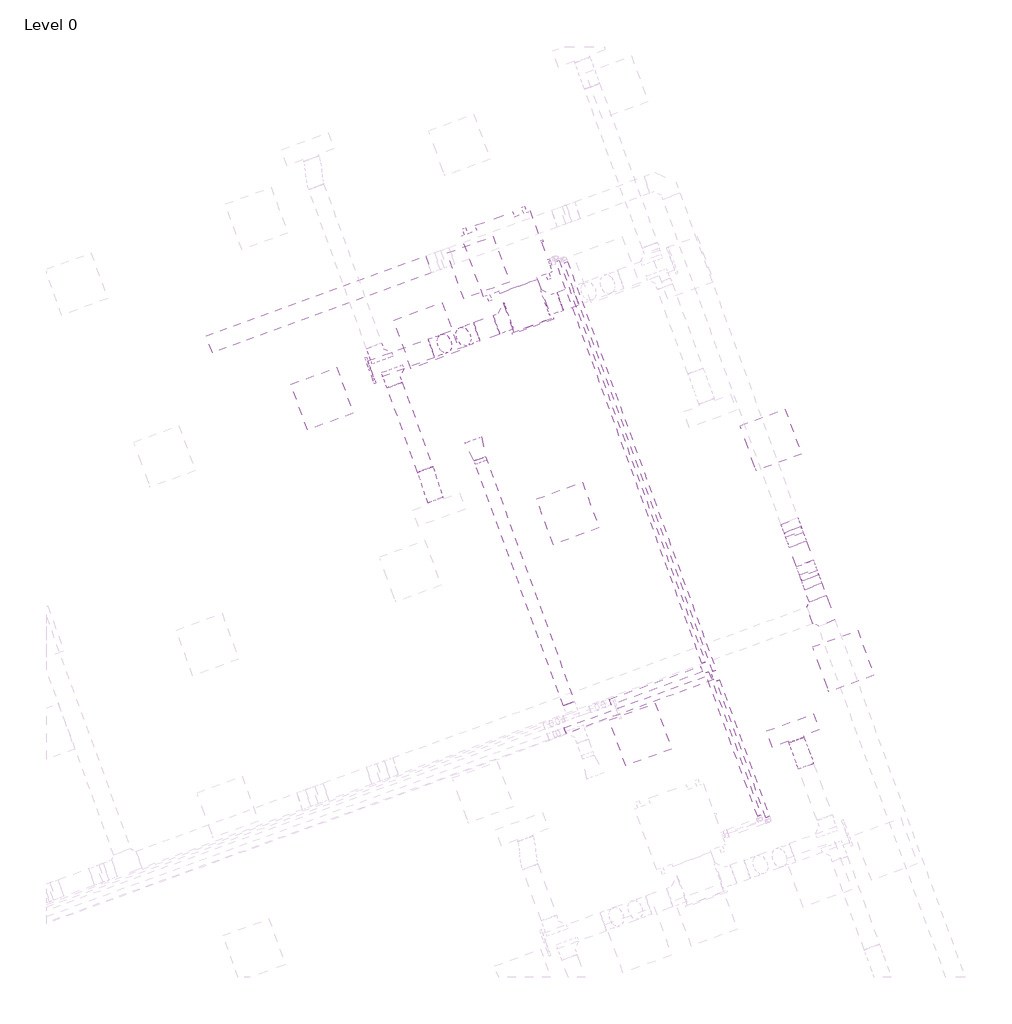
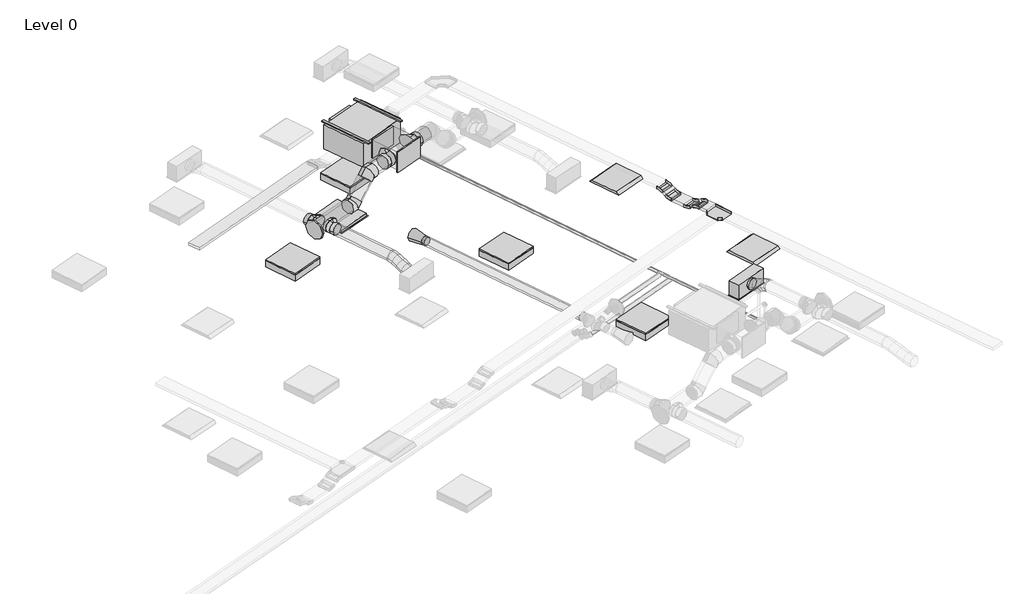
# One storey, part 32 of 34: 9 duct segments, 8 duct fittings, 6 light fixtures, 6 pipe segments, 5 cable carrier fittings, 5 cable carrier segments, 3 air terminals, 1 proxy.
"""IFC4 building model written with IfcOpenShell, lengths in millimetres."""

from ifc_helpers import new_model, si_unit, point, frame, frame_2d, origin, place, context, project, spatial, polyline, circle_curve, ellipse_curve, trimmed, segment, composite_curve, outline, extrude, transform, mapped, element, save
from ifc_brep_helpers import plane_surface, cylinder_surface, advanced_brep
from components import air_terminal_b88b8e4d, return_grille_rectangular_hosted_standard_7b12617c, supply_diffuser_with_plenum_linear_slot_hosted_2b730595, fan_coil_unit_ceiling_ducted_chw_376_lps_945e770d, cable_tray_horizontal_tee_standard_d76b5e15, cable_tray_vertical_inside_bend_standard_9a66f55b, cable_tray_vertical_outside_bend_standard_4df2047e, dw144_rectangular_blank_end_standard_1669e3e3, dw144_round_blank_end_standard_e3d0b58b, dw144_round_segmented_bend_slip_joint_standard_636bd9c1, dw144_round_shoe_branch_slip_joint1_standard_2_559552f4, dw144_round_shoe_branch_slip_joint1_standard_2_4a92c8a1, dw144_round_shoe_branch_slip_joint1_standard_2_671412f0, light_fixture_b730b5ca, troffer_light_2x2_parabolic_2_x2_2_lamp_120v_6a063ff3

model = new_model("IFC4")

# Units and contexts
model_context = context("Model", 3, world=origin())
ifc_project = project(units=[si_unit("LENGTHUNIT", "METRE", prefix="MILLI")], contexts=[model_context])

# Site, building, storey
site = spatial("IfcSite", under=ifc_project)
building = spatial("IfcBuilding", under=site)
storey = spatial("IfcBuildingStorey", under=building, Name="Level 0", Elevation=0.0)

# Air terminals
placement = place(None, origin())
air_terminal_shape = air_terminal_b88b8e4d(model_context)
element("IfcAirTerminal", 1, ObjectType="Supply_Bell_Mouth_Grille : Supply_Bell_Mouth_Grille", at=placement, inside=storey, context=model_context, shape_type="MappedRepresentation", body=[
    mapped(air_terminal_shape, transform((58081.5319053, 19738.0197173, 3050.0), x_axis=(-0.3420201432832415, 0.9396926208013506, 0.0), y_axis=(-0.9396926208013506, -0.3420201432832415, 0.0), z_axis=(0.0, 0.0, 1.0))),
])
return_grille_rectangular_hosted_standard_shape = return_grille_rectangular_hosted_standard_7b12617c(model_context)
element("IfcAirTerminal", 2, ObjectType="Return Grille - Rectangular - Hosted : Standard", at=placement, inside=storey, context=model_context, shape_type="MappedRepresentation", body=[
    mapped(return_grille_rectangular_hosted_standard_shape, transform((57415.537706, 21278.3997704, 2800.0), x_axis=(0.939692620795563, 0.34202014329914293, 0.0), y_axis=(0.34202014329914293, -0.939692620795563, 0.0), z_axis=(0.0, 0.0, -1.0))),
])
supply_diffuser_with_plenum_linear_slot_hosted_shape = supply_diffuser_with_plenum_linear_slot_hosted_2b730595(model_context)
element("IfcAirTerminal", 3, ObjectType="Supply Diffuser with Plenum - Linear Slot - Hosted : 24\" x 8\"-200 In Inlet  4-Slot", at=placement, inside=storey, context=model_context, shape_type="MappedRepresentation", body=[
    mapped(supply_diffuser_with_plenum_linear_slot_hosted_shape, transform((62001.2706716, 16338.1811806, 2800.0), x_axis=(-0.9396926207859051, -0.3420201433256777, 0.0), y_axis=(-0.3420201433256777, 0.9396926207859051, 0.0), z_axis=(0.0, 0.0, -1.0))),
])

# Proxy
fan_coil_unit_ceiling_ducted_chw_376_lps_shape = fan_coil_unit_ceiling_ducted_chw_376_lps_945e770d(model_context)
element("IfcBuildingElementProxy", 4, Name="Fan Coil Unit - Ceiling Ducted - CHW : 376 LPS", ObjectType="Fan Coil Unit - Ceiling Ducted - CHW : 376 LPS", at=placement, inside=storey, context=model_context, shape_type="MappedRepresentation", body=[
    mapped(fan_coil_unit_ceiling_ducted_chw_376_lps_shape, transform((58128.3265173, 21761.0235029, 3215.575), x_axis=(0.9396926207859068, 0.34202014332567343, 0.0), y_axis=(-0.34202014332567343, 0.9396926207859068, 0.0), z_axis=(0.0, 0.0, 1.0))),
])

# Cable carrier fittings
cable_tray_horizontal_tee_standard_shape = cable_tray_horizontal_tee_standard_d76b5e15(model_context)
element("IfcCableCarrierFitting", 5, ObjectType="Cable Tray Horizontal Tee : Standard", at=placement, inside=storey, context=model_context, shape_type="MappedRepresentation", body=[
    mapped(cable_tray_horizontal_tee_standard_shape, transform((62366.6932534, 17834.0619919, 3248.9627355), x_axis=(0.3420201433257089, -0.9396926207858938, 0.0), y_axis=(0.9396926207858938, 0.3420201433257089, 0.0), z_axis=(0.0, 0.0, 1.0))),
])
cable_tray_vertical_inside_bend_standard_shape = cable_tray_vertical_inside_bend_standard_9a66f55b(model_context)
element("IfcCableCarrierFitting", 6, ObjectType="Cable Tray Vertical Inside Bend : Standard", at=placement, inside=storey, context=model_context, shape_type="MappedRepresentation", body=[
    mapped(cable_tray_vertical_inside_bend_standard_shape, transform((62173.4812107, 18364.9077165, 3148.9627355), x_axis=(0.3420201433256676, -0.9396926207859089, 0.0), y_axis=(0.0, 0.0, 1.0000000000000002), z_axis=(-0.9396926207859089, -0.3420201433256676, 0.0))),
])
element("IfcCableCarrierFitting", 7, ObjectType="Cable Tray Vertical Inside Bend : Standard", at=placement, inside=storey, context=model_context, shape_type="MappedRepresentation", body=[
    mapped(cable_tray_vertical_inside_bend_standard_shape, transform((62039.8978743, 18731.9249168, 3148.9627355), x_axis=(0.29619813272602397, -0.8137976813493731, -0.5000000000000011), y_axis=(0.17101007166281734, -0.4698463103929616, 0.8660254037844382), z_axis=(-0.9396926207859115, -0.3420201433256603, 0.0))),
])
cable_tray_vertical_outside_bend_standard_shape = cable_tray_vertical_outside_bend_standard_4df2047e(model_context)
element("IfcCableCarrierFitting", 8, ObjectType="Cable Tray Vertical Outside Bend : Standard", at=placement, inside=storey, context=model_context, shape_type="MappedRepresentation", body=[
    mapped(cable_tray_vertical_outside_bend_standard_shape, transform((62232.7208373, 18202.1481802, 3248.9627355), x_axis=(-0.34202014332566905, 0.9396926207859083, 0.0), y_axis=(0.0, 0.0, -1.0), z_axis=(-0.9396926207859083, -0.34202014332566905, 0.0))),
])
element("IfcCableCarrierFitting", 9, ObjectType="Cable Tray Vertical Outside Bend : Standard", at=placement, inside=storey, context=model_context, shape_type="MappedRepresentation", body=[
    mapped(cable_tray_vertical_outside_bend_standard_shape, transform((61980.6582478, 18894.6844531, 3248.9627355), x_axis=(-0.29619813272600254, 0.8137976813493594, 0.500000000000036), y_axis=(-0.1710100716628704, 0.4698463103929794, -0.866025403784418), z_axis=(-0.9396926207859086, -0.3420201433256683, 0.0))),
])

# Cable carrier segments
element("IfcCableCarrierSegment", 10, ObjectType="Perforated Cable Tray", at=placement, inside=storey, context=model_context, shape_type="SweptSolid", body=[
    extrude(outline(polyline([(62416.8304, 18025.2393089), (62205.3995603, 17948.2847766), (62149.9164227, 18100.7234443), (62361.3472624, 18177.6779766), (62416.8304, 18025.2393089)])), frame((0.0, 0.0, 3223.9627355), z_axis=(0.0, 0.0, 1.0), x_axis=(1.0, 0.0, 0.0)), (0.0, 0.0, 1.0), 50.0),
])
element("IfcCableCarrierSegment", 11, ObjectType="Perforated Cable Tray", at=placement, inside=storey, context=model_context, shape_type="SweptSolid", body=[
    extrude(outline(polyline([(0.0, -225.0), (0.0, 0.0), (66.0254038, 0.0), (66.0254037, -225.0), (0.0, -225.0)])), frame((62111.4391566, 18206.4388642, 3193.8184513), z_axis=(-0.1710100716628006, 0.4698463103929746, 0.8660254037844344), x_axis=(-0.29619813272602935, 0.8137976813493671, -0.5000000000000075)), (0.0, 0.0, 1.0), 50.0),
])
element("IfcCableCarrierSegment", 12, ObjectType="Perforated Cable Tray", at=placement, inside=storey, context=model_context, shape_type="SweptSolid", body=[
    extrude(outline(polyline([(62256.2856253, 18466.3324523), (62044.8547856, 18389.3779201), (61957.0934598, 18630.500181), (62168.5242995, 18707.4547132), (62256.2856253, 18466.3324523)])), frame((0.0, 0.0, 3123.9627355), z_axis=(0.0, 0.0, 1.0), x_axis=(1.0, 0.0, 0.0)), (0.0, 0.0, 1.0), 50.0),
])
element("IfcCableCarrierSegment", 13, ObjectType="Perforated Cable Tray", at=placement, inside=storey, context=model_context, shape_type="SweptSolid", body=[
    extrude(outline(polyline([(0.0, -225.0), (0.0, 0.0), (66.0254038, 0.0), (66.0254038, -225.0), (0.0, -225.0)])), frame((61910.0656901, 18759.7079163, 3160.8057494), z_axis=(0.17101007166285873, -0.469846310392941, 0.866025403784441), x_axis=(-0.2961981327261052, 0.8137976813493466, 0.49999999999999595)), (0.0, 0.0, 1.0), 50.0),
])
element("IfcCableCarrierSegment", 14, ObjectType="Perforated Cable Tray", at=placement, inside=storey, context=model_context, shape_type="SweptSolid", body=[
    extrude(outline(polyline([(57404.0868122, 22274.5262105), (57481.0413445, 22063.0953708), (54735.1563016, 21063.6749485), (54658.2017694, 21275.1057882), (57404.0868122, 22274.5262105)])), frame((0.0, 0.0, 3223.9627355), z_axis=(0.0, 0.0, 1.0), x_axis=(1.0, 0.0, 0.0)), (0.0, 0.0, 1.0), 50.0),
])

# Duct fittings
dw144_rectangular_blank_end_standard_shape = dw144_rectangular_blank_end_standard_1669e3e3(model_context)
element("IfcDuctFitting", 15, ObjectType="DW144 Rectangular Blank End : Standard", at=placement, inside=storey, context=model_context, shape_type="MappedRepresentation", body=[
    mapped(dw144_rectangular_blank_end_standard_shape, transform((58744.3549616, 21405.2626341, 3469.575), x_axis=(0.34202014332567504, -0.9396926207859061, 0.0), y_axis=(0.9396926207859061, 0.34202014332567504, 0.0), z_axis=(0.0, 0.0, 1.0))),
])
dw144_round_blank_end_standard_shape = dw144_round_blank_end_standard_e3d0b58b(model_context)
element("IfcDuctFitting", 16, ObjectType="DW144 Round Blank End : Standard", at=placement, inside=storey, context=model_context, shape_type="MappedRepresentation", body=[
    mapped(dw144_round_blank_end_standard_shape, transform((56721.6415567, 20844.3987052, 3072.2088531), x_axis=(-0.9396926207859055, -0.3420201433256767, 0.0), y_axis=(0.3420201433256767, -0.9396926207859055, 0.0), z_axis=(0.0, 0.0, 1.0))),
])
dw144_round_segmented_bend_slip_joint_standard_shape = dw144_round_segmented_bend_slip_joint_standard_636bd9c1(model_context)
element("IfcDuctFitting", 17, ObjectType="DW144 Round Segmented Bend - Slip Joint : Standard", at=placement, inside=storey, context=model_context, shape_type="MappedRepresentation", body=[
    mapped(dw144_round_segmented_bend_slip_joint_standard_shape, transform((57572.2414269, 21153.9917392, 3072.2088531), x_axis=(-0.6644630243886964, -0.24184476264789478, -0.7071067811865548), y_axis=(-0.6644630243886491, -0.24184476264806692, 0.7071067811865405), z_axis=(-0.34202014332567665, 0.9396926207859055, 0.0))),
])
element("IfcDuctFitting", 18, ObjectType="DW144 Round Segmented Bend - Slip Joint : Standard", at=placement, inside=storey, context=model_context, shape_type="MappedRepresentation", body=[
    mapped(dw144_round_segmented_bend_slip_joint_standard_shape, transform((57945.6434628, 21289.8989657, 3469.575), x_axis=(-0.9396926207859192, -0.3420201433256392, 0.0), y_axis=(0.0, 0.0, -1.0000000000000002), z_axis=(0.3420201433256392, -0.9396926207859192, 0.0))),
])
dw144_round_shoe_branch_slip_joint1_standard_2_shape = dw144_round_shoe_branch_slip_joint1_standard_2_559552f4(model_context)
element("IfcDuctFitting", 19, ObjectType="DW144 Round Shoe Branch - Slip Joint1 : Standard 2", at=placement, inside=storey, context=model_context, shape_type="MappedRepresentation", body=[
    mapped(dw144_round_shoe_branch_slip_joint1_standard_2_shape, transform((56809.7266884, 21009.4812928, 3072.2088531), x_axis=(-0.3420201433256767, 0.9396926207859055, 0.0), y_axis=(0.9396926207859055, 0.3420201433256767, 0.0), z_axis=(0.0, 0.0, -1.0))),
])
element("IfcDuctFitting", 20, ObjectType="DW144 Round Shoe Branch - Slip Joint1 : Standard 2", at=placement, inside=storey, context=model_context, shape_type="MappedRepresentation", body=[
    mapped(dw144_round_shoe_branch_slip_joint1_standard_2_shape, transform((56963.7838783, 20799.5090812, 3072.2088531), x_axis=(0.3420201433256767, -0.9396926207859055, 0.0), y_axis=(0.9396926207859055, 0.3420201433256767, 0.0), z_axis=(0.0, 0.0, 1.0))),
])
dw144_round_shoe_branch_slip_joint1_standard_2_2_shape = dw144_round_shoe_branch_slip_joint1_standard_2_4a92c8a1(model_context)
element("IfcDuctFitting", 21, ObjectType="DW144 Round Shoe Branch - Slip Joint1 : Standard 2", at=placement, inside=storey, context=model_context, shape_type="MappedRepresentation", body=[
    mapped(dw144_round_shoe_branch_slip_joint1_standard_2_2_shape, transform((58922.9237884, 21645.5999148, 3469.575), x_axis=(0.9396926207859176, 0.3420201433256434, 0.0), y_axis=(0.3420201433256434, -0.9396926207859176, 0.0), z_axis=(0.0, 0.0, -1.0))),
])
dw144_round_shoe_branch_slip_joint1_standard_2_3_shape = dw144_round_shoe_branch_slip_joint1_standard_2_671412f0(model_context)
element("IfcDuctFitting", 22, ObjectType="DW144 Round Shoe Branch - Slip Joint1 : Standard 2", at=placement, inside=storey, context=model_context, shape_type="MappedRepresentation", body=[
    mapped(dw144_round_shoe_branch_slip_joint1_standard_2_3_shape, transform((58453.077478, 21474.5898431, 3469.575), x_axis=(-0.9396926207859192, -0.3420201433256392, 0.0), y_axis=(-0.3420201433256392, 0.9396926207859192, 0.0), z_axis=(0.0, 0.0, -1.0))),
])

# Duct segments
element("IfcDuctSegment", 23, ObjectType="DW144 Flanged Med Radius Bend / Shoe Branch", at=placement, inside=storey, context=model_context, shape_type="SweptSolid", body=[
    extrude(outline(polyline([(58331.71814, 21808.0218841), (58801.5644504, 21979.0319557), (58979.2781168, 21490.76767), (58509.4318064, 21319.7575983), (58331.71814, 21808.0218841)])), frame((0.0, 0.0, 3294.575), z_axis=(0.0, 0.0, 1.0), x_axis=(1.0, 0.0, 0.0)), (0.0, 0.0, 1.0), 350.0),
])
element("IfcDuctSegment", 24, ObjectType="DW144 Segmented Bend / Shoe Branch", at=placement, inside=storey, context=model_context, shape_type="SweptSolid", body=[
    extrude(outline(composite_curve([segment(trimmed(circle_curve(frame_2d((0.0, 125.0)), 125.0), [point((125.0, 125.0))], [point((0.0, 0.0))], False, "CARTESIAN"), True, "CONTINUOUS"), segment(trimmed(circle_curve(frame_2d((0.0, 125.0)), 125.0), [point((0.0, 0.0))], [point((-125.0, 125.0))], False, "CARTESIAN"), True, "CONTINUOUS"), segment(trimmed(circle_curve(frame_2d((0.0, 125.0)), 125.0), [point((-125.0, 125.0))], [point((0.0, 250.0))], False, "CARTESIAN"), True, "CONTINUOUS"), segment(trimmed(circle_curve(frame_2d((0.0, 125.0)), 125.0), [point((0.0, 250.0))], [point((125.0, 125.0))], False, "CARTESIAN"), True, "CONTINUOUS")], self_intersect=False)), frame((56721.6415567, 20844.3987052, 3197.2088531), z_axis=(0.9396926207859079, 0.3420201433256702, 0.0), x_axis=(0.3420201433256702, -0.9396926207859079, 0.0)), (0.0, 0.0, 1.0), 801.6360845),
])
element("IfcDuctSegment", 25, ObjectType="DW144 Segmented Bend / Shoe Branch", at=placement, inside=storey, context=model_context, shape_type="SweptSolid", body=[
    extrude(outline(composite_curve([segment(trimmed(circle_curve(frame_2d((0.0, 100.0)), 100.0), [point((100.0, 100.0))], [point((0.0, 0.0))], False, "CARTESIAN"), True, "CONTINUOUS"), segment(trimmed(circle_curve(frame_2d((0.0, 100.0)), 100.0), [point((0.0, 0.0))], [point((-100.0, 100.0))], False, "CARTESIAN"), True, "CONTINUOUS"), segment(trimmed(circle_curve(frame_2d((0.0, 100.0)), 100.0), [point((-100.0, 100.0))], [point((0.0, 200.0))], False, "CARTESIAN"), True, "CONTINUOUS"), segment(trimmed(circle_curve(frame_2d((0.0, 100.0)), 100.0), [point((0.0, 200.0))], [point((100.0, 100.0))], False, "CARTESIAN"), True, "CONTINUOUS")], self_intersect=False)), frame((57399.1073496, 19603.4676736, 3172.2088531), z_axis=(-0.3420201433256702, 0.9396926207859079, 0.0), x_axis=(0.9396926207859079, 0.3420201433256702, 0.0)), (0.0, 0.0, 1.0), 1122.8006809),
])
element("IfcDuctSegment", 26, ObjectType="DW144 Segmented Bend / Shoe Branch", at=placement, inside=storey, context=model_context, shape_type="SweptSolid", body=[
    extrude(outline(composite_curve([segment(trimmed(circle_curve(frame_2d((0.0, 125.0)), 125.0), [point((125.0, 125.0))], [point((0.0, 0.0))], False, "CARTESIAN"), True, "CONTINUOUS"), segment(trimmed(circle_curve(frame_2d((0.0, 125.0)), 125.0), [point((0.0, 0.0))], [point((-125.0, 125.0))], False, "CARTESIAN"), True, "CONTINUOUS"), segment(trimmed(circle_curve(frame_2d((0.0, 125.0)), 125.0), [point((-125.0, 125.0))], [point((0.0, 250.0))], False, "CARTESIAN"), True, "CONTINUOUS"), segment(trimmed(circle_curve(frame_2d((0.0, 125.0)), 125.0), [point((0.0, 250.0))], [point((125.0, 125.0))], False, "CARTESIAN"), True, "CONTINUOUS")], self_intersect=False)), frame((59087.3699971, 21705.4534398, 3594.575), z_axis=(0.9396926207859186, 0.3420201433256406, 0.0), x_axis=(0.3420201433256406, -0.9396926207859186, 0.0)), (0.0, 0.0, 1.0), 201.4466094),
])
element("IfcDuctSegment", 27, ObjectType="DW144 Segmented Bend / Shoe Branch", at=placement, inside=storey, context=model_context, shape_type="SweptSolid", body=[
    extrude(outline(composite_curve([segment(trimmed(circle_curve(frame_2d((0.0, -125.0)), 125.0), [point((-125.0, -125.0))], [point((0.0, 0.0))], False, "CARTESIAN"), True, "CONTINUOUS"), segment(trimmed(circle_curve(frame_2d((0.0, -125.0)), 125.0), [point((0.0, 0.0))], [point((125.0, -125.0))], False, "CARTESIAN"), True, "CONTINUOUS"), segment(trimmed(circle_curve(frame_2d((0.0, -125.0)), 125.0), [point((125.0, -125.0))], [point((0.0, -250.0))], False, "CARTESIAN"), True, "CONTINUOUS"), segment(trimmed(circle_curve(frame_2d((0.0, -125.0)), 125.0), [point((0.0, -250.0))], [point((-125.0, -125.0))], False, "CARTESIAN"), True, "CONTINUOUS")], self_intersect=False)), frame((58042.9518198, 21325.3163112, 3344.575), z_axis=(0.9396926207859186, 0.3420201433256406, 0.0), x_axis=(0.3420201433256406, -0.9396926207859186, 0.0)), (0.0, 0.0, 1.0), 261.4466094),
])
element("IfcDuctSegment", 28, ObjectType="DW144 Segmented Bend / Shoe Branch", at=placement, inside=storey, context=model_context, shape_type="SweptSolid", body=[
    extrude(outline(composite_curve([segment(trimmed(circle_curve(frame_2d((0.0, -124.9999999)), 125.0), [point((-57.2076923, -13.8591886))], [point((111.1408113, -67.7923077))], False, "CARTESIAN"), True, "CONTINUOUS"), segment(trimmed(circle_curve(frame_2d((0.0, -124.9999999)), 125.0), [point((111.1408113, -67.7923077))], [point((57.2076923, -236.1408113))], False, "CARTESIAN"), True, "CONTINUOUS"), segment(trimmed(circle_curve(frame_2d((0.0, -124.9999999)), 125.0), [point((57.2076923, -236.1408113))], [point((-111.1408114, -182.2076923))], False, "CARTESIAN"), True, "CONTINUOUS"), segment(trimmed(circle_curve(frame_2d((0.0, -124.9999999)), 125.0), [point((-111.1408114, -182.2076923))], [point((-57.2076923, -13.8591886))], False, "CARTESIAN"), True, "CONTINUOUS")], self_intersect=False)), frame((57641.048826, 21297.3091654, 3104.9802107), z_axis=(0.664463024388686, 0.24184476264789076, 0.7071067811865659), x_axis=(0.7473211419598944, -0.21503058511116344, -0.6287073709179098)), (0.0, 0.0, 1.0), 354.8538129),
])
element("IfcDuctSegment", 29, ObjectType="DW144 Segmented Bend / Shoe Branch", at=placement, inside=storey, context=model_context, shape_type="SweptSolid", body=[
    extrude(outline(composite_curve([segment(trimmed(circle_curve(frame_2d((0.0, 75.0)), 75.0), [point((75.0, 75.0))], [point((0.0, 0.0))], False, "CARTESIAN"), True, "CONTINUOUS"), segment(trimmed(circle_curve(frame_2d((0.0, 75.0)), 75.0), [point((0.0, 0.0))], [point((-75.0000001, 75.0))], False, "CARTESIAN"), True, "CONTINUOUS"), segment(trimmed(circle_curve(frame_2d((0.0, 75.0)), 75.0), [point((-75.0000001, 75.0))], [point((0.0, 150.0))], False, "CARTESIAN"), True, "CONTINUOUS"), segment(trimmed(circle_curve(frame_2d((0.0, 75.0)), 75.0), [point((0.0, 150.0))], [point((75.0, 75.0))], False, "CARTESIAN"), True, "CONTINUOUS")], self_intersect=False)), frame((59197.2979604, 16672.4776751, 3125.0), z_axis=(-0.3420201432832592, 0.9396926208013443, 0.0), x_axis=(0.9396926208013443, 0.3420201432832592, 0.0)), (0.0, 0.0, 1.0), 3262.2817019),
])
element("IfcDuctSegment", 30, ObjectType="Flex - Round", at=placement, inside=storey, context=model_context, shape_type="AdvancedBrep", body=[
    advanced_brep(
    [(57493.0766117, 19637.669688, 3072.2088531), (57399.1073496, 19603.4676736, 2972.2088531), (57305.1380875, 19569.2656593, 3072.2088531), (57399.1073496, 19603.4676736, 3172.2088531), (57499.4690922, 19620.106492, 3072.2088531), (57401.4819879, 19596.9434086, 2972.2088531), (57310.8046138, 19553.6970063, 3072.2088531), (57408.7917182, 19576.8600896, 3172.2088531), (57620.4971384, 19253.3761579, 2954.4), (57526.5278763, 19219.1741436, 3054.4), (57432.5586142, 19184.9721292, 2954.4), (57526.5278763, 19219.1741436, 2854.4), (57527.4741483, 19537.7001605, 3053.3948712), (57422.7917728, 19534.2382599, 2957.8927986), (57337.5999507, 19474.8503362, 3054.2075685), (57442.2823261, 19478.3122368, 3149.7096411), (57557.9973259, 19441.9850268, 3012.5736092), (57450.6294219, 19446.9444555, 2920.6631242), (57367.6379, 19380.6567904, 3014.035244), (57475.005804, 19375.6973617, 3105.9457289), (57588.0352752, 19347.791481, 2972.4012846), (57483.3528998, 19344.3295803, 2876.899212), (57398.1610776, 19284.9416567, 2973.213982), (57502.8434531, 19288.4035573, 3068.7160546), (57614.8306121, 19268.9448109, 2954.4), (57516.8435077, 19245.7817275, 2854.4), (57426.1661337, 19202.5353252, 2954.4), (57524.153238, 19225.6984085, 3054.4)],
    [
        (0, 1, circle_curve(frame((57399.1073496, 19603.4676736, 3072.2088531), z_axis=(-0.3420201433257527, 0.9396926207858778, 0.0), x_axis=(0.9396926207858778, 0.3420201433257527, 0.0)), 100.0)),
        (1, 2, circle_curve(frame((57399.1073496, 19603.4676736, 3072.2088531), z_axis=(-0.3420201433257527, 0.9396926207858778, 0.0), x_axis=(0.9396926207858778, 0.3420201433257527, 0.0)), 100.0)),
        (2, 3, circle_curve(frame((57399.1073496, 19603.4676736, 3072.2088531), z_axis=(-0.3420201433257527, 0.9396926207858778, 0.0), x_axis=(0.9396926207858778, 0.3420201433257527, 0.0)), 100.0)),
        (3, 0, circle_curve(frame((57399.1073496, 19603.4676736, 3072.2088531), z_axis=(-0.3420201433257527, 0.9396926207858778, 0.0), x_axis=(0.9396926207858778, 0.3420201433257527, 0.0)), 100.0)),
        (0, 4),
        (4, 5, ellipse_curve(frame((57405.136853, 19586.9017491, 3072.2088531), z_axis=(-0.33014925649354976, 0.9379298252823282, 0.10625022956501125), x_axis=(-0.12885483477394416, 0.06672604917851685, -0.9894160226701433)), 100.5749435, 100.0)),
        (5, 1),
        (5, 6, ellipse_curve(frame((57405.136853, 19586.9017491, 3072.2088531), z_axis=(-0.33014925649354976, 0.9379298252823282, 0.10625022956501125), x_axis=(-0.12885483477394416, 0.06672604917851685, -0.9894160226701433)), 100.5749435, 100.0)),
        (6, 2),
        (6, 7, ellipse_curve(frame((57405.136853, 19586.9017491, 3072.2088531), z_axis=(-0.33014925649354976, 0.9379298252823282, 0.10625022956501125), x_axis=(-0.12885483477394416, 0.06672604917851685, -0.9894160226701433)), 100.5749435, 100.0)),
        (7, 3),
        (7, 4, ellipse_curve(frame((57405.136853, 19586.9017491, 3072.2088531), z_axis=(-0.33014925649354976, 0.9379298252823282, 0.10625022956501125), x_axis=(-0.12885483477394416, 0.06672604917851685, -0.9894160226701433)), 100.5749435, 100.0)),
        (8, 9, circle_curve(frame((57526.5278763, 19219.1741436, 2954.4), z_axis=(0.342020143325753, -0.9396926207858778, 0.0), x_axis=(0.9396926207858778, 0.342020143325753, 0.0)), 100.0)),
        (9, 10, circle_curve(frame((57526.5278763, 19219.1741436, 2954.4), z_axis=(0.342020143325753, -0.9396926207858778, 0.0), x_axis=(0.9396926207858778, 0.342020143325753, 0.0)), 100.0)),
        (10, 11, circle_curve(frame((57526.5278763, 19219.1741436, 2954.4), z_axis=(0.342020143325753, -0.9396926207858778, 0.0), x_axis=(0.9396926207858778, 0.342020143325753, 0.0)), 100.0)),
        (11, 8, circle_curve(frame((57526.5278763, 19219.1741436, 2954.4), z_axis=(0.342020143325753, -0.9396926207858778, 0.0), x_axis=(0.9396926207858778, 0.342020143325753, 0.0)), 100.0)),
        (4, 12),
        (12, 13, ellipse_curve(frame((57432.5370495, 19506.2752484, 3053.8012198), z_axis=(-0.2991195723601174, 0.9074777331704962, 0.29497736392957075), x_axis=(-0.19007782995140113, 0.24626994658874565, -0.9503796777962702)), 100.3796227, 100.0)),
        (13, 5),
        (13, 14, ellipse_curve(frame((57432.5370495, 19506.2752484, 3053.8012198), z_axis=(-0.2991195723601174, 0.9074777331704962, 0.29497736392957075), x_axis=(-0.19007782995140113, 0.24626994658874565, -0.9503796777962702)), 100.3796227, 100.0)),
        (14, 6),
        (14, 15, ellipse_curve(frame((57432.5370495, 19506.2752484, 3053.8012198), z_axis=(-0.2991195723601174, 0.9074777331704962, 0.29497736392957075), x_axis=(-0.19007782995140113, 0.24626994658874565, -0.9503796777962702)), 100.3796227, 100.0)),
        (15, 7),
        (15, 12, ellipse_curve(frame((57432.5370495, 19506.2752484, 3053.8012198), z_axis=(-0.2991195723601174, 0.9074777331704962, 0.29497736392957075), x_axis=(-0.19007782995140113, 0.24626994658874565, -0.9503796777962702)), 100.3796227, 100.0)),
        (12, 16),
        (16, 17, circle_curve(frame((57462.817613, 19411.3209086, 3013.3044266), z_axis=(-0.28147295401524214, 0.8826479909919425, 0.3764379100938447), x_axis=(0.9517971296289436, 0.3066411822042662, -0.00730817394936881)), 100.0)),
        (17, 13),
        (17, 18, circle_curve(frame((57462.817613, 19411.3209086, 3013.3044266), z_axis=(-0.28147295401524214, 0.8826479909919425, 0.3764379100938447), x_axis=(0.9517971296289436, 0.3066411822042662, -0.00730817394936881)), 100.0)),
        (18, 14),
        (18, 19, circle_curve(frame((57462.817613, 19411.3209086, 3013.3044266), z_axis=(-0.28147295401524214, 0.8826479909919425, 0.3764379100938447), x_axis=(0.9517971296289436, 0.3066411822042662, -0.00730817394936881)), 100.0)),
        (19, 15),
        (19, 16, circle_curve(frame((57462.817613, 19411.3209086, 3013.3044266), z_axis=(-0.28147295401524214, 0.8826479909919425, 0.3764379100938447), x_axis=(0.9517971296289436, 0.3066411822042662, -0.00730817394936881)), 100.0)),
        (16, 20),
        (20, 21, ellipse_curve(frame((57493.0981764, 19316.3665688, 2972.8076333), z_axis=(-0.2991195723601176, 0.9074777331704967, 0.29497736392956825), x_axis=(0.19007782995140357, -0.24626994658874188, 0.9503796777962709)), 100.3796227, 100.0)),
        (21, 17),
        (21, 22, ellipse_curve(frame((57493.0981764, 19316.3665688, 2972.8076333), z_axis=(-0.2991195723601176, 0.9074777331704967, 0.29497736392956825), x_axis=(0.19007782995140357, -0.24626994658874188, 0.9503796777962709)), 100.3796227, 100.0)),
        (22, 18),
        (22, 23, ellipse_curve(frame((57493.0981764, 19316.3665688, 2972.8076333), z_axis=(-0.2991195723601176, 0.9074777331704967, 0.29497736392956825), x_axis=(0.19007782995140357, -0.24626994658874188, 0.9503796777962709)), 100.3796227, 100.0)),
        (23, 19),
        (23, 20, ellipse_curve(frame((57493.0981764, 19316.3665688, 2972.8076333), z_axis=(-0.2991195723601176, 0.9074777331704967, 0.29497736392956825), x_axis=(0.19007782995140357, -0.24626994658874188, 0.9503796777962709)), 100.3796227, 100.0)),
        (20, 24),
        (24, 25, ellipse_curve(frame((57520.4983729, 19235.740068, 2954.4), z_axis=(-0.33014925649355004, 0.9379298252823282, 0.10625022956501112), x_axis=(0.12885483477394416, -0.06672604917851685, 0.9894160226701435)), 100.5749435, 100.0)),
        (25, 21),
        (25, 26, ellipse_curve(frame((57520.4983729, 19235.740068, 2954.4), z_axis=(-0.33014925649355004, 0.9379298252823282, 0.10625022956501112), x_axis=(0.12885483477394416, -0.06672604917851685, 0.9894160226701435)), 100.5749435, 100.0)),
        (26, 22),
        (26, 27, ellipse_curve(frame((57520.4983729, 19235.740068, 2954.4), z_axis=(-0.33014925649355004, 0.9379298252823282, 0.10625022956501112), x_axis=(0.12885483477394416, -0.06672604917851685, 0.9894160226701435)), 100.5749435, 100.0)),
        (27, 23),
        (27, 24, ellipse_curve(frame((57520.4983729, 19235.740068, 2954.4), z_axis=(-0.33014925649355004, 0.9379298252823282, 0.10625022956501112), x_axis=(0.12885483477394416, -0.06672604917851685, 0.9894160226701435)), 100.5749435, 100.0)),
        (24, 8),
        (11, 25),
        (10, 26),
        (9, 27),
    ],
    [
        plane_surface(frame((57399.1073496, 19603.4676736, 2972.2088531), z_axis=(-0.34202014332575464, 0.9396926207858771, 0.0), x_axis=(0.9396926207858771, 0.34202014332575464, 0.0))),
        cylinder_surface(frame((57399.1073496, 19603.4676736, 3072.2088531), z_axis=(-0.3420201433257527, 0.9396926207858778, 0.0), x_axis=(0.9396926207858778, 0.3420201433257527, 0.0)), 100.0),
        plane_surface(frame((57526.5278763, 19219.1741436, 2854.4), z_axis=(0.34202014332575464, -0.9396926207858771, 0.0), x_axis=(0.9396926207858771, 0.34202014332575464, 0.0))),
        cylinder_surface(frame((57405.136853, 19586.9017491, 3072.2088531), z_axis=(-0.31450372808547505, 0.9254435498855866, 0.2112856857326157), x_axis=(0.9466601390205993, 0.32222593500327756, -0.002242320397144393)), 100.0),
        cylinder_surface(frame((57432.5370495, 19506.2752484, 3053.8012198), z_axis=(-0.28147295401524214, 0.8826479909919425, 0.3764379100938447), x_axis=(0.9517971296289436, 0.3066411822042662, -0.00730817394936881)), 100.0),
        cylinder_surface(frame((57462.817613, 19411.3209086, 3013.3044266), z_axis=(-0.2814729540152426, 0.8826479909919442, 0.37643791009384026), x_axis=(0.9517971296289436, 0.30664118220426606, -0.007308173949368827)), 100.0),
        cylinder_surface(frame((57493.0981764, 19316.3665688, 2972.8076333), z_axis=(-0.3145037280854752, 0.9254435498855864, 0.21128568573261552), x_axis=(0.9466601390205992, 0.3222259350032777, -0.0022423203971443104)), 100.0),
        cylinder_surface(frame((57520.4983729, 19235.740068, 2954.4), z_axis=(-0.342020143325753, 0.9396926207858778, 0.0), x_axis=(0.9396926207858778, 0.342020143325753, 0.0)), 100.0),
    ],
    [
        (0, [[1, 2, 3, 4]]),
        (1, [[-1, 5, 6, 7]]),
        (1, [[-2, -7, 8, 9]]),
        (1, [[-3, -9, 10, 11]]),
        (1, [[-4, -11, 12, -5]]),
        (2, [[13, 14, 15, 16]]),
        (3, [[-6, 17, 18, 19]]),
        (3, [[-8, -19, 20, 21]]),
        (3, [[-10, -21, 22, 23]]),
        (3, [[-12, -23, 24, -17]]),
        (4, [[-18, 25, 26, 27]]),
        (4, [[-20, -27, 28, 29]]),
        (4, [[-22, -29, 30, 31]]),
        (4, [[-24, -31, 32, -25]]),
        (5, [[-26, 33, 34, 35]]),
        (5, [[-28, -35, 36, 37]]),
        (5, [[-30, -37, 38, 39]]),
        (5, [[-32, -39, 40, -33]]),
        (6, [[-34, 41, 42, 43]]),
        (6, [[-36, -43, 44, 45]]),
        (6, [[-38, -45, 46, 47]]),
        (6, [[-40, -47, 48, -41]]),
        (7, [[-42, 49, -16, 50]]),
        (7, [[-44, -50, -15, 51]]),
        (7, [[-46, -51, -14, 52]]),
        (7, [[-48, -52, -13, -49]]),
    ],
),
])
element("IfcDuctSegment", 31, ObjectType="Flex - Round", at=placement, inside=storey, context=model_context, shape_type="AdvancedBrep", body=[
    advanced_brep(
    [(62070.0387428, 15856.9594371, 3072.2088531), (62164.8595282, 15888.724491, 2972.2088531), (62259.6803136, 15920.489545, 3072.2088531), (62164.8595282, 15888.724491, 3172.2088531), (62062.8978453, 15878.2754881, 3072.2088531), (62161.8405733, 15897.7362709, 2972.2088531), (62252.0842997, 15943.1641486, 3072.2088531), (62153.1415717, 15923.7033658, 3172.2088531), (61951.39074, 16182.8538554, 2955.1902253), (62046.099637, 16217.3250748, 3054.3968777), (62139.3233961, 16251.2557482, 2953.6097747), (62044.6144992, 16216.7845288, 2854.4031223), (62041.4461278, 15939.335541, 3054.1476892), (62147.0701791, 15939.7786414, 2959.7729951), (62229.8095608, 16006.5668452, 3053.4547505), (62124.1855096, 16006.1237448, 3147.8294445), (62012.3252458, 16018.9137687, 3014.0303512), (62120.3213538, 16012.8747829, 2922.923436), (62200.1377911, 16087.650476, 3012.5785019), (62092.1416832, 16093.6894618, 3103.6854171), (61982.4599011, 16098.8007868, 2973.6587219), (62087.4873233, 16100.7027593, 2878.5387713), (62170.0872638, 16168.0328405, 2971.9565447), (62065.0598416, 16166.130868, 3067.0764953), (61958.3787177, 16163.6545446, 2955.1902253), (62056.0167058, 16185.4572236, 2854.4031223), (62146.1648002, 16232.459145, 2953.6097747), (62048.5268121, 16210.6564659, 3054.3968777)],
    [
        (0, 1, circle_curve(frame((62164.8595282, 15888.724491, 3072.2088531), z_axis=(0.31765053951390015, -0.9482078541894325, 0.0), x_axis=(-0.9482078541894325, -0.31765053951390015, 0.0)), 100.0)),
        (1, 2, circle_curve(frame((62164.8595282, 15888.724491, 3072.2088531), z_axis=(0.31765053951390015, -0.9482078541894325, 0.0), x_axis=(-0.9482078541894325, -0.31765053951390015, 0.0)), 100.0)),
        (2, 3, circle_curve(frame((62164.8595282, 15888.724491, 3072.2088531), z_axis=(0.31765053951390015, -0.9482078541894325, 0.0), x_axis=(-0.9482078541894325, -0.31765053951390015, 0.0)), 100.0)),
        (3, 0, circle_curve(frame((62164.8595282, 15888.724491, 3072.2088531), z_axis=(0.31765053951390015, -0.9482078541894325, 0.0), x_axis=(-0.9482078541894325, -0.31765053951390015, 0.0)), 100.0)),
        (0, 4),
        (4, 5, ellipse_curve(frame((62157.4910725, 15910.7198184, 3072.2088531), z_axis=(0.3214358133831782, -0.9371637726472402, 0.13565795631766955), x_axis=(-0.00593082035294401, -0.1452502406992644, -0.9893771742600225)), 100.9356422, 100.0)),
        (5, 1),
        (5, 6, ellipse_curve(frame((62157.4910725, 15910.7198184, 3072.2088531), z_axis=(0.3214358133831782, -0.9371637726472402, 0.13565795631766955), x_axis=(-0.00593082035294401, -0.1452502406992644, -0.9893771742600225)), 100.9356422, 100.0)),
        (6, 2),
        (6, 7, ellipse_curve(frame((62157.4910725, 15910.7198184, 3072.2088531), z_axis=(0.3214358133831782, -0.9371637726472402, 0.13565795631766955), x_axis=(-0.00593082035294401, -0.1452502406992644, -0.9893771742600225)), 100.9356422, 100.0)),
        (7, 3),
        (7, 4, ellipse_curve(frame((62157.4910725, 15910.7198184, 3072.2088531), z_axis=(0.3214358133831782, -0.9371637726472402, 0.13565795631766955), x_axis=(-0.00593082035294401, -0.1452502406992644, -0.9893771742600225)), 100.9356422, 100.0)),
        (8, 9, circle_curve(frame((62045.3570681, 16217.0548018, 2954.4), z_axis=(-0.342020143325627, 0.9396926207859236, 0.0), x_axis=(-0.9396632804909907, -0.34200946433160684, 0.007902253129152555)), 100.0)),
        (9, 10, circle_curve(frame((62045.3570681, 16217.0548018, 2954.4), z_axis=(-0.342020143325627, 0.9396926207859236, 0.0), x_axis=(-0.9396632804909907, -0.34200946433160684, 0.007902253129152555)), 100.0)),
        (10, 11, circle_curve(frame((62045.3570681, 16217.0548018, 2954.4), z_axis=(-0.342020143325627, 0.9396926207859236, 0.0), x_axis=(-0.9396632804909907, -0.34200946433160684, 0.007902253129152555)), 100.0)),
        (11, 8, circle_curve(frame((62045.3570681, 16217.0548018, 2954.4), z_axis=(-0.342020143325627, 0.9396926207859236, 0.0), x_axis=(-0.9396632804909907, -0.34200946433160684, 0.007902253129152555)), 100.0)),
        (4, 12),
        (12, 13, ellipse_curve(frame((62135.6278443, 15972.9511931, 3053.8012198), z_axis=(0.3160800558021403, -0.8819650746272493, 0.3496155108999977), x_axis=(0.050857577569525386, -0.35222682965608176, -0.9345318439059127)), 100.3642371, 100.0)),
        (13, 5),
        (13, 14, ellipse_curve(frame((62135.6278443, 15972.9511931, 3053.8012198), z_axis=(0.3160800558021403, -0.8819650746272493, 0.3496155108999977), x_axis=(0.050857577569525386, -0.35222682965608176, -0.9345318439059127)), 100.3642371, 100.0)),
        (14, 6),
        (14, 15, ellipse_curve(frame((62135.6278443, 15972.9511931, 3053.8012198), z_axis=(0.3160800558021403, -0.8819650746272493, 0.3496155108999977), x_axis=(0.050857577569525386, -0.35222682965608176, -0.9345318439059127)), 100.3642371, 100.0)),
        (15, 7),
        (15, 12, ellipse_curve(frame((62135.6278443, 15972.9511931, 3053.8012198), z_axis=(0.3160800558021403, -0.8819650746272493, 0.3496155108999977), x_axis=(0.050857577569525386, -0.35222682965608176, -0.9345318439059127)), 100.3642371, 100.0)),
        (12, 16),
        (16, 17, ellipse_curve(frame((62106.2315185, 16053.2821224, 3013.3044266), z_axis=(0.3135563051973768, -0.8477071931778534, 0.4278725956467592), x_axis=(-0.9390190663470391, -0.3437936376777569, 0.007009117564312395)), 100.0004937, 100.0)),
        (17, 13),
        (17, 18, ellipse_curve(frame((62106.2315185, 16053.2821224, 3013.3044266), z_axis=(0.3135563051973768, -0.8477071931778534, 0.4278725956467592), x_axis=(-0.9390190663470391, -0.3437936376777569, 0.007009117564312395)), 100.0004937, 100.0)),
        (18, 14),
        (18, 19, ellipse_curve(frame((62106.2315185, 16053.2821224, 3013.3044266), z_axis=(0.3135563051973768, -0.8477071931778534, 0.4278725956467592), x_axis=(-0.9390190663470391, -0.3437936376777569, 0.007009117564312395)), 100.0004937, 100.0)),
        (19, 15),
        (19, 16, ellipse_curve(frame((62106.2315185, 16053.2821224, 3013.3044266), z_axis=(0.3135563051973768, -0.8477071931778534, 0.4278725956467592), x_axis=(-0.9390190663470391, -0.3437936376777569, 0.007009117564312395)), 100.0004937, 100.0)),
        (16, 20),
        (20, 21, ellipse_curve(frame((62076.2735824, 16133.4168136, 2972.8076333), z_axis=(0.32775514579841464, -0.8797914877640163, 0.34430147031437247), x_axis=(-0.10944660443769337, 0.32662018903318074, 0.9387974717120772)), 100.4120319, 100.0)),
        (21, 17),
        (21, 22, ellipse_curve(frame((62076.2735824, 16133.4168136, 2972.8076333), z_axis=(0.32775514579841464, -0.8797914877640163, 0.34430147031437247), x_axis=(-0.10944660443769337, 0.32662018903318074, 0.9387974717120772)), 100.4120319, 100.0)),
        (22, 18),
        (22, 23, ellipse_curve(frame((62076.2735824, 16133.4168136, 2972.8076333), z_axis=(0.32775514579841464, -0.8797914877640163, 0.34430147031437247), x_axis=(-0.10944660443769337, 0.32662018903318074, 0.9387974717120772)), 100.4120319, 100.0)),
        (23, 19),
        (23, 20, ellipse_curve(frame((62076.2735824, 16133.4168136, 2972.8076333), z_axis=(0.32775514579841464, -0.8797914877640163, 0.34430147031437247), x_axis=(-0.10944660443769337, 0.32662018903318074, 0.9387974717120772)), 100.4120319, 100.0)),
        (20, 24),
        (24, 25, ellipse_curve(frame((62052.271759, 16198.0568448, 2954.4), z_axis=(0.34207527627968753, -0.9306268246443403, 0.13007005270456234), x_axis=(-0.02192464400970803, 0.1304783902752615, 0.9912087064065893)), 100.8573078, 100.0)),
        (25, 21),
        (25, 26, ellipse_curve(frame((62052.271759, 16198.0568448, 2954.4), z_axis=(0.34207527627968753, -0.9306268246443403, 0.13007005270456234), x_axis=(-0.02192464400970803, 0.1304783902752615, 0.9912087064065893)), 100.8573078, 100.0)),
        (26, 22),
        (26, 27, ellipse_curve(frame((62052.271759, 16198.0568448, 2954.4), z_axis=(0.34207527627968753, -0.9306268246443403, 0.13007005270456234), x_axis=(-0.02192464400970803, 0.1304783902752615, 0.9912087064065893)), 100.8573078, 100.0)),
        (27, 23),
        (27, 24, ellipse_curve(frame((62052.271759, 16198.0568448, 2954.4), z_axis=(0.34207527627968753, -0.9306268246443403, 0.13007005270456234), x_axis=(-0.02192464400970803, 0.1304783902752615, 0.9912087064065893)), 100.8573078, 100.0)),
        (24, 8),
        (11, 25),
        (10, 26),
        (9, 27),
    ],
    [
        plane_surface(frame((62164.8595282, 15888.724491, 3172.2088531), z_axis=(0.31765053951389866, -0.9482078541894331, 0.0), x_axis=(0.9482078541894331, 0.31765053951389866, 0.0))),
        cylinder_surface(frame((62164.8595282, 15888.724491, 3072.2088531), z_axis=(0.31765053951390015, -0.9482078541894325, 0.0), x_axis=(-0.9482078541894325, -0.31765053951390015, 0.0)), 100.0),
        plane_surface(frame((62045.3570681, 16217.0548018, 3054.4), z_axis=(-0.3420201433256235, 0.939692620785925, 0.0), x_axis=(0.939692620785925, 0.3420201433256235, 0.0))),
        cylinder_surface(frame((62157.4910725, 15910.7198184, 3072.2088531), z_axis=(0.31926186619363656, -0.908745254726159, 0.26880089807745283), x_axis=(-0.9436451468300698, -0.33095336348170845, 0.001925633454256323)), 100.0),
        cylinder_surface(frame((62135.6278443, 15972.9511931, 3053.8012198), z_axis=(0.31060404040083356, -0.8487833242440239, 0.42789250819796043), x_axis=(-0.9400387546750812, -0.34101635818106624, 0.0059146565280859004)), 100.0),
        cylinder_surface(frame((62106.2315185, 16053.2821224, 3013.3044266), z_axis=(0.3165054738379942, -0.8466226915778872, 0.4278484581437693), x_axis=(-0.9380681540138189, -0.34634392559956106, 0.00860369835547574)), 100.0),
        cylinder_surface(frame((62076.2735824, 16133.4168136, 2972.8076333), z_axis=(0.3363149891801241, -0.9057399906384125, 0.25792886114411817), x_axis=(-0.9382097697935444, -0.3459637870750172, 0.008454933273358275)), 100.0),
        cylinder_surface(frame((62052.271759, 16198.0568448, 2954.4), z_axis=(0.342020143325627, -0.9396926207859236, 0.0), x_axis=(-0.9396632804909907, -0.34200946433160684, 0.007902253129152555)), 100.0),
    ],
    [
        (0, [[1, 2, 3, 4]]),
        (1, [[-1, 5, 6, 7]]),
        (1, [[-2, -7, 8, 9]]),
        (1, [[-3, -9, 10, 11]]),
        (1, [[-4, -11, 12, -5]]),
        (2, [[13, 14, 15, 16]]),
        (3, [[-6, 17, 18, 19]]),
        (3, [[-8, -19, 20, 21]]),
        (3, [[-10, -21, 22, 23]]),
        (3, [[-12, -23, 24, -17]]),
        (4, [[-18, 25, 26, 27]]),
        (4, [[-20, -27, 28, 29]]),
        (4, [[-22, -29, 30, 31]]),
        (4, [[-24, -31, 32, -25]]),
        (5, [[-26, 33, 34, 35]]),
        (5, [[-28, -35, 36, 37]]),
        (5, [[-30, -37, 38, 39]]),
        (5, [[-32, -39, 40, -33]]),
        (6, [[-34, 41, 42, 43]]),
        (6, [[-36, -43, 44, 45]]),
        (6, [[-38, -45, 46, 47]]),
        (6, [[-40, -47, 48, -41]]),
        (7, [[-42, 49, -16, 50]]),
        (7, [[-44, -50, -15, 51]]),
        (7, [[-46, -51, -14, 52]]),
        (7, [[-48, -52, -13, -49]]),
    ],
),
])

# Light fixtures
light_fixture_shape = light_fixture_b730b5ca(model_context)
element("IfcLightFixture", 32, ObjectType="ELEKTRA EM Recessed Lighting Fixture : 24\" x 24\" - 230", at=placement, inside=storey, context=model_context, shape_type="MappedRepresentation", body=[
    mapped(light_fixture_shape, transform((62451.4857981, 16821.2994172, 2800.0), x_axis=(0.9396926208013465, 0.3420201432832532, 0.0), y_axis=(0.3420201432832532, -0.9396926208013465, 0.0), z_axis=(0.0, 0.0, -1.0))),
])
element("IfcLightFixture", 33, ObjectType="ELEKTRA EM Recessed Lighting Fixture : 24\" x 24\" - 230", at=placement, inside=storey, context=model_context, shape_type="MappedRepresentation", body=[
    mapped(light_fixture_shape, transform((61542.5837845, 19587.9883808, 2800.0), x_axis=(0.9396926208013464, 0.34202014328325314, 0.0), y_axis=(0.34202014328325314, -0.9396926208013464, 0.0), z_axis=(0.0, 0.0, -1.0))),
])
troffer_light_2x2_parabolic_2_x2_2_lamp_120v_shape = troffer_light_2x2_parabolic_2_x2_2_lamp_120v_6a063ff3(model_context)
element("IfcLightFixture", 34, ObjectType="Troffer Light - 2x2 Parabolic : 2'x2'(2 Lamp) - 120V", at=placement, inside=storey, context=model_context, shape_type="MappedRepresentation", body=[
    mapped(troffer_light_2x2_parabolic_2_x2_2_lamp_120v_shape, transform((60196.2235082, 16000.4510734, 2800.0), x_axis=(0.9396926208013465, 0.3420201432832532, 0.0), y_axis=(0.3420201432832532, -0.9396926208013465, 0.0), z_axis=(0.0, 0.0, -1.0))),
])
element("IfcLightFixture", 35, ObjectType="Troffer Light - 2x2 Parabolic : 2'x2'(2 Lamp) - 120V", at=placement, inside=storey, context=model_context, shape_type="MappedRepresentation", body=[
    mapped(troffer_light_2x2_parabolic_2_x2_2_lamp_120v_shape, transform((58167.7821852, 21843.802482, 2800.0), x_axis=(0.9396926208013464, 0.34202014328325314, 0.0), y_axis=(0.34202014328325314, -0.9396926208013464, 0.0), z_axis=(0.0, 0.0, -1.0))),
])
element("IfcLightFixture", 36, ObjectType="Troffer Light - 2x2 Parabolic : 2'x2'(2 Lamp) - 120V", at=placement, inside=storey, context=model_context, shape_type="MappedRepresentation", body=[
    mapped(troffer_light_2x2_parabolic_2_x2_2_lamp_120v_shape, transform((59287.3214946, 18767.140037, 2800.0), x_axis=(0.9396926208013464, 0.34202014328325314, 0.0), y_axis=(0.34202014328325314, -0.9396926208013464, 0.0), z_axis=(0.0, 0.0, -1.0))),
])
element("IfcLightFixture", 37, ObjectType="Troffer Light - 2x2 Parabolic : 2'x2'(2 Lamp) - 120V", at=placement, inside=storey, context=model_context, shape_type="MappedRepresentation", body=[
    mapped(troffer_light_2x2_parabolic_2_x2_2_lamp_120v_shape, transform((56211.2108608, 20201.553983, 2800.0), x_axis=(0.9396926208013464, 0.34202014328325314, 0.0), y_axis=(0.34202014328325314, -0.9396926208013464, 0.0), z_axis=(0.0, 0.0, -1.0))),
])

# Pipe segments
element("IfcPipeSegment", 38, ObjectType="Carbon Steel - Threaded", at=placement, inside=storey, context=model_context, shape_type="SweptSolid", body=[
    extrude(outline(composite_curve([segment(trimmed(circle_curve(frame_2d((0.0, 38.3)), 38.3), [point((38.3, 38.3))], [point((0.0, 0.0))], False, "CARTESIAN"), True, "CONTINUOUS"), segment(trimmed(circle_curve(frame_2d((0.0, 38.3)), 38.3), [point((0.0, 0.0))], [point((-38.2999999, 38.3))], False, "CARTESIAN"), True, "CONTINUOUS"), segment(trimmed(circle_curve(frame_2d((0.0, 38.3)), 38.3), [point((-38.2999999, 38.3))], [point((0.0, 76.6))], False, "CARTESIAN"), True, "CONTINUOUS"), segment(trimmed(circle_curve(frame_2d((0.0, 38.3)), 38.3), [point((0.0, 76.6))], [point((38.3, 38.3))], False, "CARTESIAN"), True, "CONTINUOUS")], self_intersect=False)), frame((59716.5508004, 16693.5919595, 3038.3), z_axis=(0.9396926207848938, 0.3420201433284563, 0.0), x_axis=(0.3420201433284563, -0.9396926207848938, 0.0)), (0.0, 0.0, 1.0), 1211.1712381),
])
element("IfcPipeSegment", 39, ObjectType="Carbon Steel - Threaded", at=placement, inside=storey, context=model_context, shape_type="SweptSolid", body=[
    extrude(outline(composite_curve([segment(trimmed(circle_curve(frame_2d((0.0, 38.3)), 38.3), [point((38.2999999, 38.3))], [point((0.0, 0.0))], False, "CARTESIAN"), True, "CONTINUOUS"), segment(trimmed(circle_curve(frame_2d((0.0, 38.3)), 38.3), [point((0.0, 0.0))], [point((-38.3, 38.3))], False, "CARTESIAN"), True, "CONTINUOUS"), segment(trimmed(circle_curve(frame_2d((0.0, 38.3)), 38.3), [point((-38.3, 38.3))], [point((0.0, 76.6))], False, "CARTESIAN"), True, "CONTINUOUS"), segment(trimmed(circle_curve(frame_2d((0.0, 38.3)), 38.3), [point((0.0, 76.6))], [point((38.2999999, 38.3))], False, "CARTESIAN"), True, "CONTINUOUS")], self_intersect=False)), frame((59150.473082, 16335.8249333, 2963.3), z_axis=(0.9396926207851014, 0.34202014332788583, 0.0), x_axis=(0.34202014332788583, -0.9396926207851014, 0.0)), (0.0, 0.0, 1.0), 1959.2419242),
])
element("IfcPipeSegment", 40, ObjectType="Carbon Steel - Threaded", at=placement, inside=storey, context=model_context, shape_type="SweptSolid", body=[
    extrude(outline(composite_curve([segment(trimmed(circle_curve(frame_2d((0.0, 21.45)), 21.45), [point((21.45, 21.45))], [point((0.0, 0.0))], False, "CARTESIAN"), True, "CONTINUOUS"), segment(trimmed(circle_curve(frame_2d((0.0, 21.45)), 21.45), [point((0.0, 0.0))], [point((-21.4500001, 21.45))], False, "CARTESIAN"), True, "CONTINUOUS"), segment(trimmed(circle_curve(frame_2d((0.0, 21.45)), 21.45), [point((-21.4500001, 21.45))], [point((0.0, 42.9))], False, "CARTESIAN"), True, "CONTINUOUS"), segment(trimmed(circle_curve(frame_2d((0.0, 21.45)), 21.45), [point((0.0, 42.9))], [point((21.45, 21.45))], False, "CARTESIAN"), True, "CONTINUOUS")], self_intersect=False)), frame((60882.5277361, 17184.4733269, 3021.45), z_axis=(-0.3420201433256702, 0.9396926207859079, 0.0), x_axis=(0.9396926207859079, 0.3420201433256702, 0.0)), (0.0, 0.0, 1.0), 5350.2384505),
])
element("IfcPipeSegment", 41, ObjectType="Carbon Steel - Threaded", at=placement, inside=storey, context=model_context, shape_type="SweptSolid", body=[
    extrude(outline(composite_curve([segment(trimmed(circle_curve(frame_2d((0.0, 21.45)), 21.45), [point((21.4500001, 21.45))], [point((0.0, 0.0))], False, "CARTESIAN"), True, "CONTINUOUS"), segment(trimmed(circle_curve(frame_2d((0.0, 21.45)), 21.45), [point((0.0, 0.0))], [point((-21.45, 21.45))], False, "CARTESIAN"), True, "CONTINUOUS"), segment(trimmed(circle_curve(frame_2d((0.0, 21.45)), 21.45), [point((-21.45, 21.45))], [point((0.0, 42.9))], False, "CARTESIAN"), True, "CONTINUOUS"), segment(trimmed(circle_curve(frame_2d((0.0, 21.45)), 21.45), [point((0.0, 42.9))], [point((21.4500001, 21.45))], False, "CARTESIAN"), True, "CONTINUOUS")], self_intersect=False)), frame((61579.0334233, 15270.8396786, 3021.45), z_axis=(-0.3420201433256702, 0.9396926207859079, 0.0), x_axis=(0.9396926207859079, 0.3420201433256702, 0.0)), (0.0, 0.0, 1.0), 1911.4663932),
])
element("IfcPipeSegment", 42, ObjectType="Carbon Steel - Threaded", at=placement, inside=storey, context=model_context, shape_type="SweptSolid", body=[
    extrude(outline(composite_curve([segment(trimmed(circle_curve(frame_2d((0.0, 21.45)), 21.45), [point((21.45, 21.45))], [point((0.0, 0.0))], False, "CARTESIAN"), True, "CONTINUOUS"), segment(trimmed(circle_curve(frame_2d((0.0, 21.45)), 21.45), [point((0.0, 0.0))], [point((-21.45, 21.45))], False, "CARTESIAN"), True, "CONTINUOUS"), segment(trimmed(circle_curve(frame_2d((0.0, 21.45)), 21.45), [point((-21.45, 21.45))], [point((0.0, 42.9))], False, "CARTESIAN"), True, "CONTINUOUS"), segment(trimmed(circle_curve(frame_2d((0.0, 21.45)), 21.45), [point((0.0, 42.9))], [point((21.45, 21.45))], False, "CARTESIAN"), True, "CONTINUOUS")], self_intersect=False)), frame((61019.4065213, 17082.5615441, 2946.45), z_axis=(-0.3420201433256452, 0.939692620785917, 0.0), x_axis=(0.939692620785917, 0.3420201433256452, 0.0)), (0.0, 0.0, 1.0), 5442.0195026),
])
element("IfcPipeSegment", 43, ObjectType="Carbon Steel - Threaded", at=placement, inside=storey, context=model_context, shape_type="SweptSolid", body=[
    extrude(outline(composite_curve([segment(trimmed(circle_curve(frame_2d((0.0, -21.45)), 21.45), [point((-21.45, -21.45))], [point((0.0, 0.0))], False, "CARTESIAN"), True, "CONTINUOUS"), segment(trimmed(circle_curve(frame_2d((0.0, -21.45)), 21.45), [point((0.0, 0.0))], [point((21.45, -21.45))], False, "CARTESIAN"), True, "CONTINUOUS"), segment(trimmed(circle_curve(frame_2d((0.0, -21.45)), 21.45), [point((21.45, -21.45))], [point((0.0, -42.9))], False, "CARTESIAN"), True, "CONTINUOUS"), segment(trimmed(circle_curve(frame_2d((0.0, -21.45)), 21.45), [point((0.0, -42.9))], [point((-21.45, -21.45))], False, "CARTESIAN"), True, "CONTINUOUS")], self_intersect=False)), frame((61684.52124, 15255.173873, 2903.55), z_axis=(-0.34202014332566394, 0.9396926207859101, 0.0), x_axis=(0.9396926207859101, 0.34202014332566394, 0.0)), (0.0, 0.0, 1.0), 1819.6853412),
])

save(model, "model.ifc")
